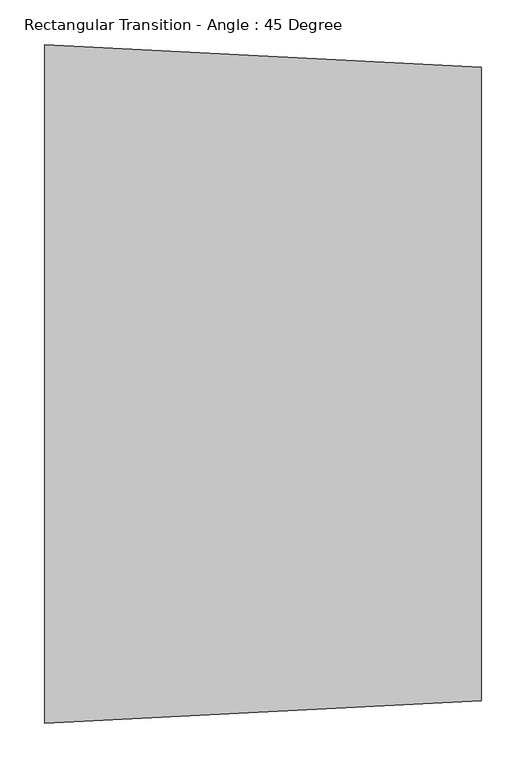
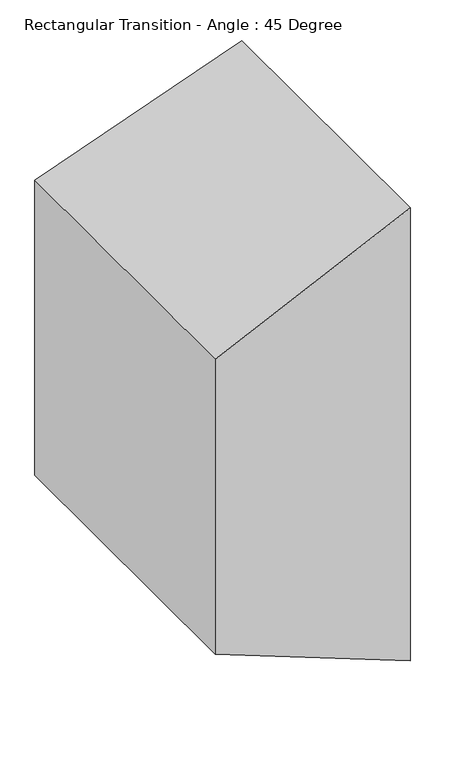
"""IFC4 building model written with IfcOpenShell, lengths in millimetres: duct fitting geometry, Rectangular Transition - Angle : 45 Degree."""

from ifc_helpers import new_model, si_unit, origin, place, context, project, spatial, faceted_brep, source, transform, mapped, element, save


def rectangular_transition_angle_45_degree_d7e84c4c(model_context):
    return source(origin(), model_context, "Body", "Brep", [
        faceted_brep([(490.5681959, -355.6, 584.2), (490.5681959, -355.6, -584.2), (490.5681959, 355.6, -584.2), (490.5681959, 355.6, 584.2), (0.0, -381.0, 381.0), (0.0, 381.0, 381.0), (0.0, 381.0, -381.0), (0.0, -381.0, -381.0)], [[[0, 1, 2, 3]], [[4, 5, 6, 7]], [[4, 7, 1, 0]], [[7, 6, 2, 1]], [[6, 5, 3, 2]], [[5, 4, 0, 3]]]),
    ])


if __name__ == "__main__":
    model = new_model("IFC4")
    model_context = context("Model", 3, world=origin())
    ifc_project = project(units=[si_unit("LENGTHUNIT", "METRE", prefix="MILLI")], contexts=[model_context])
    site = spatial("IfcSite", under=ifc_project)
    building = spatial("IfcBuilding", under=site)
    placement = place(None, origin())
    rectangular_transition_angle_45_degree_shape = rectangular_transition_angle_45_degree_d7e84c4c(model_context)
    element("IfcDuctFitting", 1, ObjectType="Rectangular Transition - Angle : 45 Degree", at=placement, inside=building, context=model_context, shape_type="MappedRepresentation", body=[
        mapped(rectangular_transition_angle_45_degree_shape, transform((0.0, 0.0, 0.0), x_axis=(1.0, 0.0, 0.0), y_axis=(0.0, 1.0, 0.0), z_axis=(0.0, 0.0, 1.0))),
    ])
    save(model, "model.ifc")
